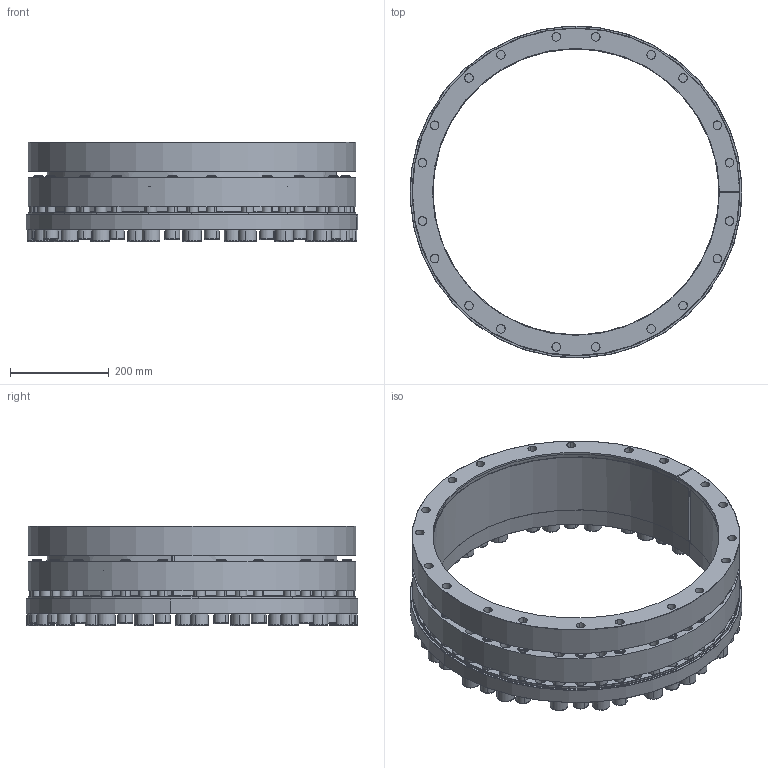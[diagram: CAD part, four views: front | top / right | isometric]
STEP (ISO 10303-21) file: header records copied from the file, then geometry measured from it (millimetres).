
FILE_DESCRIPTION (( 'STEP AP214' ), '1' );
FILE_NAME ('CONEX-P-580x665-P-023.step', '2015-11-30T21:15:36', ( '' ), ( '' ), 'SwSTEP 2.0', 'SolidWorks 2013', '' );
FILE_SCHEMA (( 'AUTOMOTIVE_DESIGN' ));
Length unit declared in the file: millimetre
Products named in the file (1): CONEX-P-580x665-P-023
Bounding box: 673.36 x 673.36 x 202 mm (x, y, z)
Volume: 13622992.1 mm3; surface area: 2274481.6 mm2
Topology: 43 solids, 43 shells, 1359 faces, 3122 edges, 1851 vertices
Faces by surface type: plane 622, cylinder 392, cone 181, torus 164
Entity records: 53529 total; most frequent: DIRECTION 7206, CARTESIAN_POINT 6351, ORIENTED_EDGE 6084, EDGE_CURVE 3042, AXIS2_PLACEMENT_3D 2826, VERTEX_POINT 1851, EDGE_LOOP 1661, VECTOR 1554
